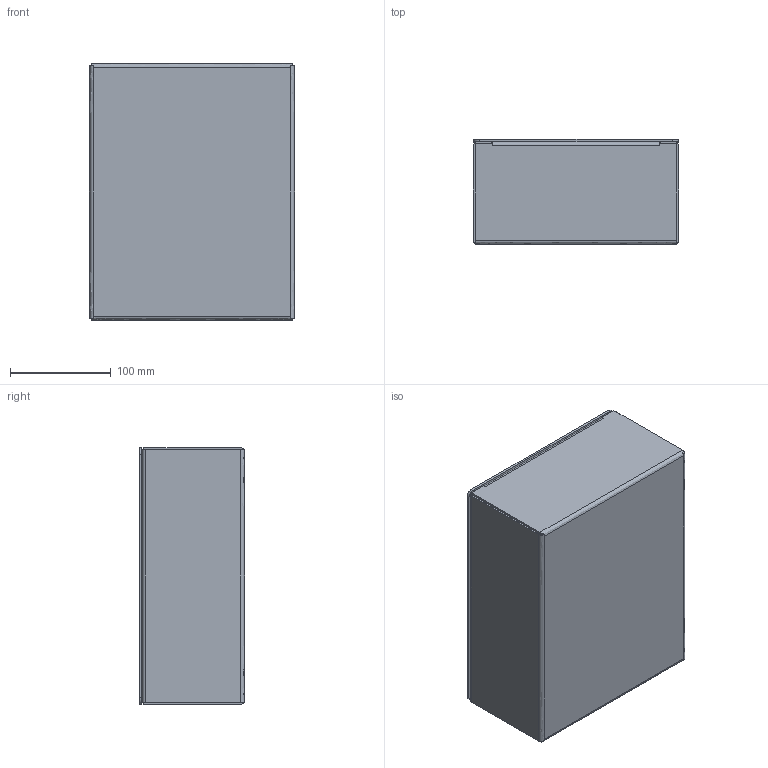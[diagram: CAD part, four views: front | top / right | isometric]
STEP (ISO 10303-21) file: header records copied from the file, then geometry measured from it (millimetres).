
FILE_DESCRIPTION((''),'2;1');
FILE_NAME('D:\scratch\ideas\scvr_assy_a1084gsc.stp', '2006-03-17T08:19:58',('User'),('SDRC'),'I-DEAS Master Series 9','UNIX', 'Yes');
FILE_SCHEMA(('AUTOMOTIVE_DESIGN { 1 0 10303 214 0 1 1 1 }'));
Length unit declared in the file: inch
Products named in the file (5): 56120; scvr_wmt_body_1084; 32132001; scvr_body_1084; scvr_cover_108
Assembly tree (4 placements, depth 3):
  56120
    scvr_wmt_body_1084
      32132001
      scvr_body_1084
    scvr_cover_108
Bounding box: 203.2 x 104.06 x 254 mm (x, y, z)
Volume: 404628.1 mm3; surface area: 413100.9 mm2
Topology: 3 solids, 3 shells, 149 faces, 472 edges, 396 vertices
Faces by surface type: bspline 149
Entity records: 4964 total; most frequent: CARTESIAN_POINT 2136, ORIENTED_EDGE 804, EDGE_CURVE 402, QUASI_UNIFORM_CURVE 332, VERTEX_POINT 260, EDGE_LOOP 182, FACE_OUTER_BOUND 149, ADVANCED_FACE 149
